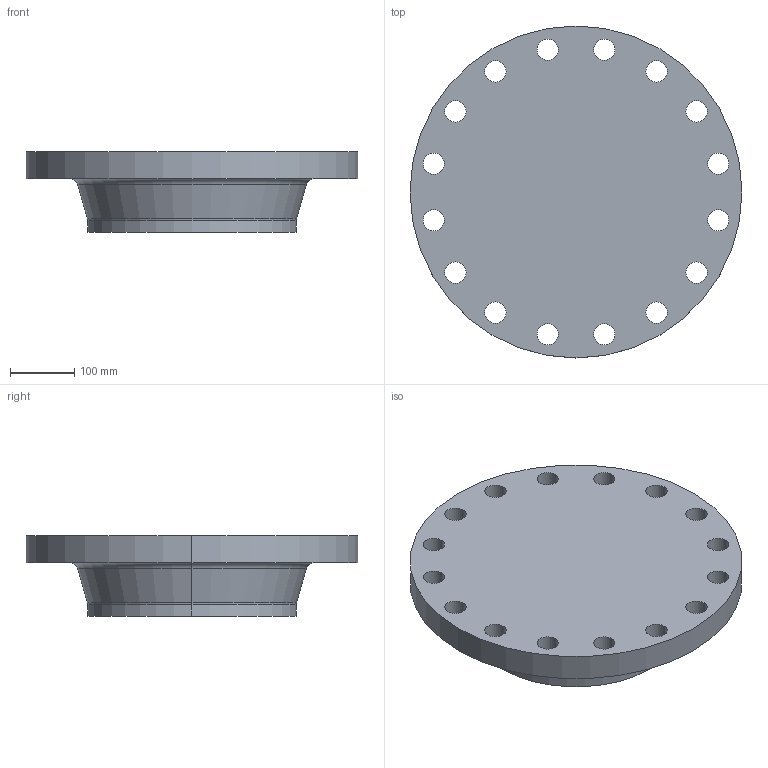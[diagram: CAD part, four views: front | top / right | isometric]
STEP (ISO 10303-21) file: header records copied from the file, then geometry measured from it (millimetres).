
FILE_DESCRIPTION (( 'STEP AP214' ), '1' );
FILE_NAME ('PN40 DN300 Type 21(ii) - Type A Face.STEP', '2019-01-05T19:00:12', ( '' ), ( '' ), 'SwSTEP 2.0', 'SolidWorks 2019', '' );
FILE_SCHEMA (( 'AUTOMOTIVE_DESIGN' ));
Length unit declared in the file: millimetre
Products named in the file (1): PN40 DN300 Type 21(ii) - Type A Face
Bounding box: 515 x 515 x 125 mm (x, y, z)
Volume: 15631911.5 mm3; surface area: 595349.3 mm2
Topology: 1 solids, 1 shells, 45 faces, 120 edges, 78 vertices
Faces by surface type: cylinder 36, torus 4, plane 3, cone 2
Entity records: 1546 total; most frequent: DIRECTION 294, CARTESIAN_POINT 244, ORIENTED_EDGE 240, AXIS2_PLACEMENT_3D 128, EDGE_CURVE 120, CIRCLE 82, EDGE_LOOP 78, VERTEX_POINT 78
